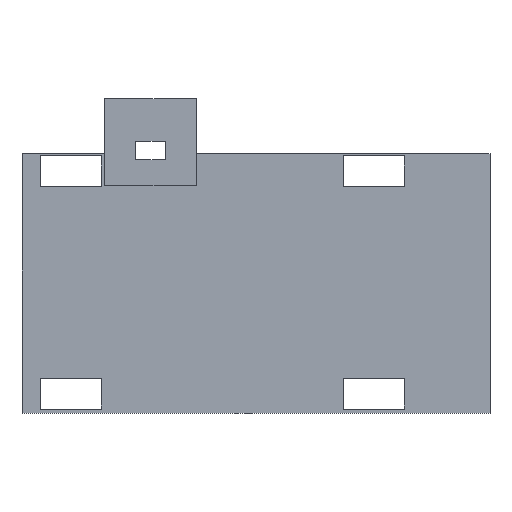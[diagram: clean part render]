
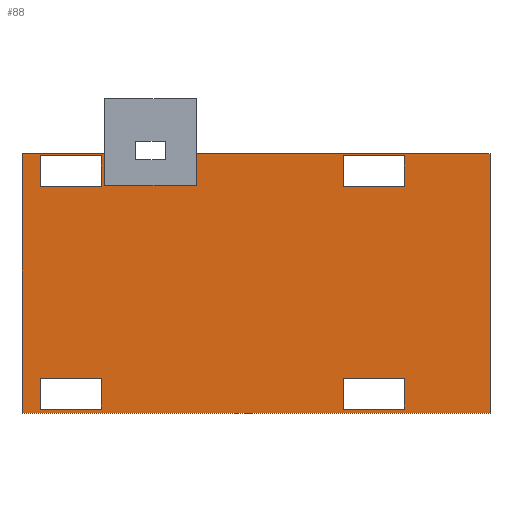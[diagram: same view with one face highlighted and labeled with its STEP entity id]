
A CAD part, top view. The second image highlights one B-rep face of the part: STEP entity #88.
In plain terms, the highlighted planar face has unit normal (0, 0, 1).
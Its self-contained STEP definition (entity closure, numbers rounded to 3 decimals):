
#24 = VERTEX_POINT('',#25);
#25 = CARTESIAN_POINT('',(-71.,15.55,134.15));
#40 = VERTEX_POINT('',#41);
#41 = CARTESIAN_POINT('',(-71.,43.85,134.15));
#47 = EDGE_CURVE('',#24,#40,#48,.T.);
#48 = LINE('',#49,#50);
#49 = CARTESIAN_POINT('',(-71.,15.55,134.15));
#50 = VECTOR('',#51,1.);
#51 = DIRECTION('',(-0.,1.,0.));
#70 = EDGE_CURVE('',#24,#71,#73,.T.);
#71 = VERTEX_POINT('',#72);
#72 = CARTESIAN_POINT('',(-20.,15.55,134.15));
#73 = LINE('',#74,#75);
#74 = CARTESIAN_POINT('',(-71.,15.55,134.15));
#75 = VECTOR('',#76,1.);
#76 = DIRECTION('',(1.,0.,-0.));
#88 = ADVANCED_FACE('',(#89,#139,#173,#207,#241,#275),#309,.T.);
#89 = FACE_BOUND('',#90,.T.);
#90 = EDGE_LOOP('',(#91,#99,#100,#101,#109,#117,#125,#133));
#91 = ORIENTED_EDGE('',*,*,#92,.F.);
#92 = EDGE_CURVE('',#40,#93,#95,.T.);
#93 = VERTEX_POINT('',#94);
#94 = CARTESIAN_POINT('',(-62.04,43.85,134.15));
#95 = LINE('',#96,#97);
#96 = CARTESIAN_POINT('',(-71.,43.85,134.15));
#97 = VECTOR('',#98,1.);
#98 = DIRECTION('',(1.,0.,-0.));
#99 = ORIENTED_EDGE('',*,*,#47,.F.);
#100 = ORIENTED_EDGE('',*,*,#70,.T.);
#101 = ORIENTED_EDGE('',*,*,#102,.T.);
#102 = EDGE_CURVE('',#71,#103,#105,.T.);
#103 = VERTEX_POINT('',#104);
#104 = CARTESIAN_POINT('',(-20.,43.85,134.15));
#105 = LINE('',#106,#107);
#106 = CARTESIAN_POINT('',(-20.,15.55,134.15));
#107 = VECTOR('',#108,1.);
#108 = DIRECTION('',(-0.,1.,0.));
#109 = ORIENTED_EDGE('',*,*,#110,.F.);
#110 = EDGE_CURVE('',#111,#103,#113,.T.);
#111 = VERTEX_POINT('',#112);
#112 = CARTESIAN_POINT('',(-51.96,43.85,134.15));
#113 = LINE('',#114,#115);
#114 = CARTESIAN_POINT('',(-71.,43.85,134.15));
#115 = VECTOR('',#116,1.);
#116 = DIRECTION('',(1.,0.,-0.));
#117 = ORIENTED_EDGE('',*,*,#118,.F.);
#118 = EDGE_CURVE('',#119,#111,#121,.T.);
#119 = VERTEX_POINT('',#120);
#120 = CARTESIAN_POINT('',(-51.96,41.67,134.15));
#121 = LINE('',#122,#123);
#122 = CARTESIAN_POINT('',(-51.96,28.61,134.15));
#123 = VECTOR('',#124,1.);
#124 = DIRECTION('',(-0.,1.,0.));
#125 = ORIENTED_EDGE('',*,*,#126,.T.);
#126 = EDGE_CURVE('',#119,#127,#129,.T.);
#127 = VERTEX_POINT('',#128);
#128 = CARTESIAN_POINT('',(-62.04,41.67,134.15));
#129 = LINE('',#130,#131);
#130 = CARTESIAN_POINT('',(-66.52,41.67,134.15));
#131 = VECTOR('',#132,1.);
#132 = DIRECTION('',(-1.,-0.,0.));
#133 = ORIENTED_EDGE('',*,*,#134,.T.);
#134 = EDGE_CURVE('',#127,#93,#135,.T.);
#135 = LINE('',#136,#137);
#136 = CARTESIAN_POINT('',(-62.04,28.61,134.15));
#137 = VECTOR('',#138,1.);
#138 = DIRECTION('',(-0.,1.,0.));
#139 = FACE_BOUND('',#140,.T.);
#140 = EDGE_LOOP('',(#141,#151,#159,#167));
#141 = ORIENTED_EDGE('',*,*,#142,.T.);
#142 = EDGE_CURVE('',#143,#145,#147,.T.);
#143 = VERTEX_POINT('',#144);
#144 = CARTESIAN_POINT('',(-62.35,16.02,134.15));
#145 = VERTEX_POINT('',#146);
#146 = CARTESIAN_POINT('',(-69.,16.02,134.15));
#147 = LINE('',#148,#149);
#148 = CARTESIAN_POINT('',(-70.,16.02,134.15));
#149 = VECTOR('',#150,1.);
#150 = DIRECTION('',(-1.,-0.,0.));
#151 = ORIENTED_EDGE('',*,*,#152,.T.);
#152 = EDGE_CURVE('',#145,#153,#155,.T.);
#153 = VERTEX_POINT('',#154);
#154 = CARTESIAN_POINT('',(-69.,19.36,134.15));
#155 = LINE('',#156,#157);
#156 = CARTESIAN_POINT('',(-69.,15.785,134.15));
#157 = VECTOR('',#158,1.);
#158 = DIRECTION('',(-0.,1.,0.));
#159 = ORIENTED_EDGE('',*,*,#160,.F.);
#160 = EDGE_CURVE('',#161,#153,#163,.T.);
#161 = VERTEX_POINT('',#162);
#162 = CARTESIAN_POINT('',(-62.35,19.36,134.15));
#163 = LINE('',#164,#165);
#164 = CARTESIAN_POINT('',(-70.,19.36,134.15));
#165 = VECTOR('',#166,1.);
#166 = DIRECTION('',(-1.,-0.,0.));
#167 = ORIENTED_EDGE('',*,*,#168,.F.);
#168 = EDGE_CURVE('',#143,#161,#169,.T.);
#169 = LINE('',#170,#171);
#170 = CARTESIAN_POINT('',(-62.35,15.785,134.15));
#171 = VECTOR('',#172,1.);
#172 = DIRECTION('',(-0.,1.,0.));
#173 = FACE_BOUND('',#174,.T.);
#174 = EDGE_LOOP('',(#175,#185,#193,#201));
#175 = ORIENTED_EDGE('',*,*,#176,.T.);
#176 = EDGE_CURVE('',#177,#179,#181,.T.);
#177 = VERTEX_POINT('',#178);
#178 = CARTESIAN_POINT('',(-29.35,16.02,134.15));
#179 = VERTEX_POINT('',#180);
#180 = CARTESIAN_POINT('',(-36.,16.02,134.15));
#181 = LINE('',#182,#183);
#182 = CARTESIAN_POINT('',(-53.5,16.02,134.15));
#183 = VECTOR('',#184,1.);
#184 = DIRECTION('',(-1.,-0.,0.));
#185 = ORIENTED_EDGE('',*,*,#186,.T.);
#186 = EDGE_CURVE('',#179,#187,#189,.T.);
#187 = VERTEX_POINT('',#188);
#188 = CARTESIAN_POINT('',(-36.,19.36,134.15));
#189 = LINE('',#190,#191);
#190 = CARTESIAN_POINT('',(-36.,15.785,134.15));
#191 = VECTOR('',#192,1.);
#192 = DIRECTION('',(-0.,1.,0.));
#193 = ORIENTED_EDGE('',*,*,#194,.F.);
#194 = EDGE_CURVE('',#195,#187,#197,.T.);
#195 = VERTEX_POINT('',#196);
#196 = CARTESIAN_POINT('',(-29.35,19.36,134.15));
#197 = LINE('',#198,#199);
#198 = CARTESIAN_POINT('',(-53.5,19.36,134.15));
#199 = VECTOR('',#200,1.);
#200 = DIRECTION('',(-1.,-0.,0.));
#201 = ORIENTED_EDGE('',*,*,#202,.F.);
#202 = EDGE_CURVE('',#177,#195,#203,.T.);
#203 = LINE('',#204,#205);
#204 = CARTESIAN_POINT('',(-29.35,15.785,134.15));
#205 = VECTOR('',#206,1.);
#206 = DIRECTION('',(-0.,1.,0.));
#207 = FACE_BOUND('',#208,.T.);
#208 = EDGE_LOOP('',(#209,#219,#227,#235));
#209 = ORIENTED_EDGE('',*,*,#210,.T.);
#210 = EDGE_CURVE('',#211,#213,#215,.T.);
#211 = VERTEX_POINT('',#212);
#212 = CARTESIAN_POINT('',(-62.35,40.28,134.15));
#213 = VERTEX_POINT('',#214);
#214 = CARTESIAN_POINT('',(-69.,40.28,134.15));
#215 = LINE('',#216,#217);
#216 = CARTESIAN_POINT('',(-70.,40.28,134.15));
#217 = VECTOR('',#218,1.);
#218 = DIRECTION('',(-1.,-0.,0.));
#219 = ORIENTED_EDGE('',*,*,#220,.T.);
#220 = EDGE_CURVE('',#213,#221,#223,.T.);
#221 = VERTEX_POINT('',#222);
#222 = CARTESIAN_POINT('',(-69.,43.62,134.15));
#223 = LINE('',#224,#225);
#224 = CARTESIAN_POINT('',(-69.,27.915,134.15));
#225 = VECTOR('',#226,1.);
#226 = DIRECTION('',(-0.,1.,0.));
#227 = ORIENTED_EDGE('',*,*,#228,.F.);
#228 = EDGE_CURVE('',#229,#221,#231,.T.);
#229 = VERTEX_POINT('',#230);
#230 = CARTESIAN_POINT('',(-62.35,43.62,134.15));
#231 = LINE('',#232,#233);
#232 = CARTESIAN_POINT('',(-70.,43.62,134.15));
#233 = VECTOR('',#234,1.);
#234 = DIRECTION('',(-1.,-0.,0.));
#235 = ORIENTED_EDGE('',*,*,#236,.F.);
#236 = EDGE_CURVE('',#211,#229,#237,.T.);
#237 = LINE('',#238,#239);
#238 = CARTESIAN_POINT('',(-62.35,27.915,134.15));
#239 = VECTOR('',#240,1.);
#240 = DIRECTION('',(-0.,1.,0.));
#241 = FACE_BOUND('',#242,.T.);
#242 = EDGE_LOOP('',(#243,#253,#261,#269));
#243 = ORIENTED_EDGE('',*,*,#244,.T.);
#244 = EDGE_CURVE('',#245,#247,#249,.T.);
#245 = VERTEX_POINT('',#246);
#246 = CARTESIAN_POINT('',(-52.,40.4,134.15));
#247 = VERTEX_POINT('',#248);
#248 = CARTESIAN_POINT('',(-62.,40.4,134.15));
#249 = LINE('',#250,#251);
#250 = CARTESIAN_POINT('',(-66.5,40.4,134.15));
#251 = VECTOR('',#252,1.);
#252 = DIRECTION('',(-1.,-0.,0.));
#253 = ORIENTED_EDGE('',*,*,#254,.T.);
#254 = EDGE_CURVE('',#247,#255,#257,.T.);
#255 = VERTEX_POINT('',#256);
#256 = CARTESIAN_POINT('',(-62.,41.64,134.15));
#257 = LINE('',#258,#259);
#258 = CARTESIAN_POINT('',(-62.,27.975,134.15));
#259 = VECTOR('',#260,1.);
#260 = DIRECTION('',(-0.,1.,0.));
#261 = ORIENTED_EDGE('',*,*,#262,.F.);
#262 = EDGE_CURVE('',#263,#255,#265,.T.);
#263 = VERTEX_POINT('',#264);
#264 = CARTESIAN_POINT('',(-52.,41.64,134.15));
#265 = LINE('',#266,#267);
#266 = CARTESIAN_POINT('',(-66.5,41.64,134.15));
#267 = VECTOR('',#268,1.);
#268 = DIRECTION('',(-1.,-0.,0.));
#269 = ORIENTED_EDGE('',*,*,#270,.F.);
#270 = EDGE_CURVE('',#245,#263,#271,.T.);
#271 = LINE('',#272,#273);
#272 = CARTESIAN_POINT('',(-52.,27.975,134.15));
#273 = VECTOR('',#274,1.);
#274 = DIRECTION('',(-0.,1.,0.));
#275 = FACE_BOUND('',#276,.T.);
#276 = EDGE_LOOP('',(#277,#287,#295,#303));
#277 = ORIENTED_EDGE('',*,*,#278,.T.);
#278 = EDGE_CURVE('',#279,#281,#283,.T.);
#279 = VERTEX_POINT('',#280);
#280 = CARTESIAN_POINT('',(-29.35,40.28,134.15));
#281 = VERTEX_POINT('',#282);
#282 = CARTESIAN_POINT('',(-36.,40.28,134.15));
#283 = LINE('',#284,#285);
#284 = CARTESIAN_POINT('',(-53.5,40.28,134.15));
#285 = VECTOR('',#286,1.);
#286 = DIRECTION('',(-1.,-0.,0.));
#287 = ORIENTED_EDGE('',*,*,#288,.T.);
#288 = EDGE_CURVE('',#281,#289,#291,.T.);
#289 = VERTEX_POINT('',#290);
#290 = CARTESIAN_POINT('',(-36.,43.62,134.15));
#291 = LINE('',#292,#293);
#292 = CARTESIAN_POINT('',(-36.,27.915,134.15));
#293 = VECTOR('',#294,1.);
#294 = DIRECTION('',(-0.,1.,0.));
#295 = ORIENTED_EDGE('',*,*,#296,.F.);
#296 = EDGE_CURVE('',#297,#289,#299,.T.);
#297 = VERTEX_POINT('',#298);
#298 = CARTESIAN_POINT('',(-29.35,43.62,134.15));
#299 = LINE('',#300,#301);
#300 = CARTESIAN_POINT('',(-53.5,43.62,134.15));
#301 = VECTOR('',#302,1.);
#302 = DIRECTION('',(-1.,-0.,0.));
#303 = ORIENTED_EDGE('',*,*,#304,.F.);
#304 = EDGE_CURVE('',#279,#297,#305,.T.);
#305 = LINE('',#306,#307);
#306 = CARTESIAN_POINT('',(-29.35,27.915,134.15));
#307 = VECTOR('',#308,1.);
#308 = DIRECTION('',(-0.,1.,0.));
#309 = PLANE('',#310);
#310 = AXIS2_PLACEMENT_3D('',#311,#312,#313);
#311 = CARTESIAN_POINT('',(-71.,15.55,134.15));
#312 = DIRECTION('',(0.,0.,1.));
#313 = DIRECTION('',(1.,0.,-0.));
